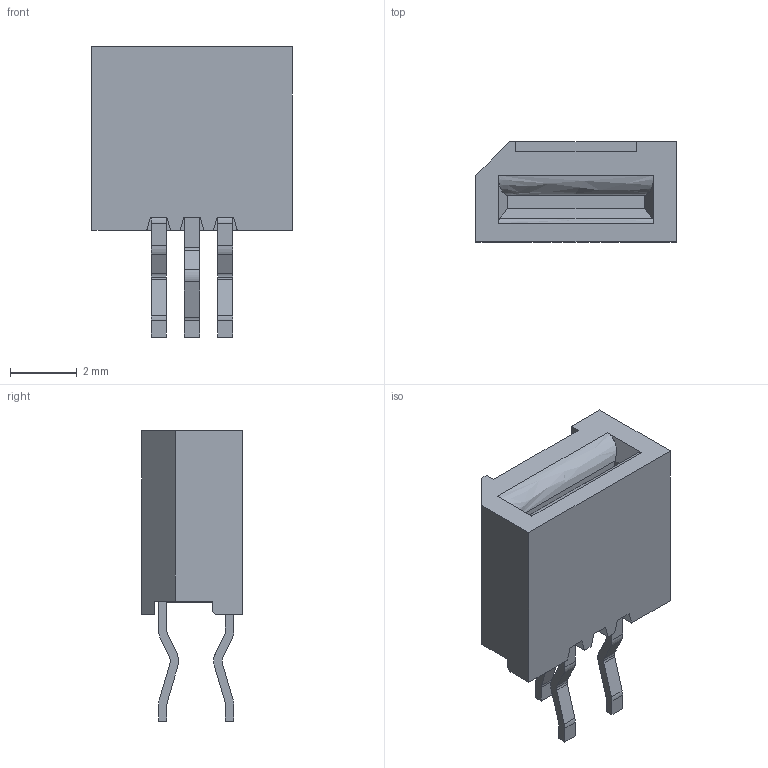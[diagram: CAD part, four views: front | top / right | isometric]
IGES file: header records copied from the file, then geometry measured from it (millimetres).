
Start section: SolidWorks IGES file using analytic representation for surfaces
Global section: file name: N:\Kamikawa_Hisako\KK活動\チェック要\OKフィレットR0.2_(006)_00_6232_0XX_006_894+_006_DIP_010_277\006232003006.IGS; native system: SolidWorks 2023; preprocessor: SolidWorks 2023; author: SW-NOTE01; date: 240305.113524; units: millimetre
Bounding box: 6 x 3 x 8.7 mm (x, y, z)
Surface area: 184.9 mm2 (no closed solid volume)
Topology: 0 solids, 0 shells, 102 faces, 620 edges, 618 vertices
Faces by surface type: bspline 72, revolution 30
